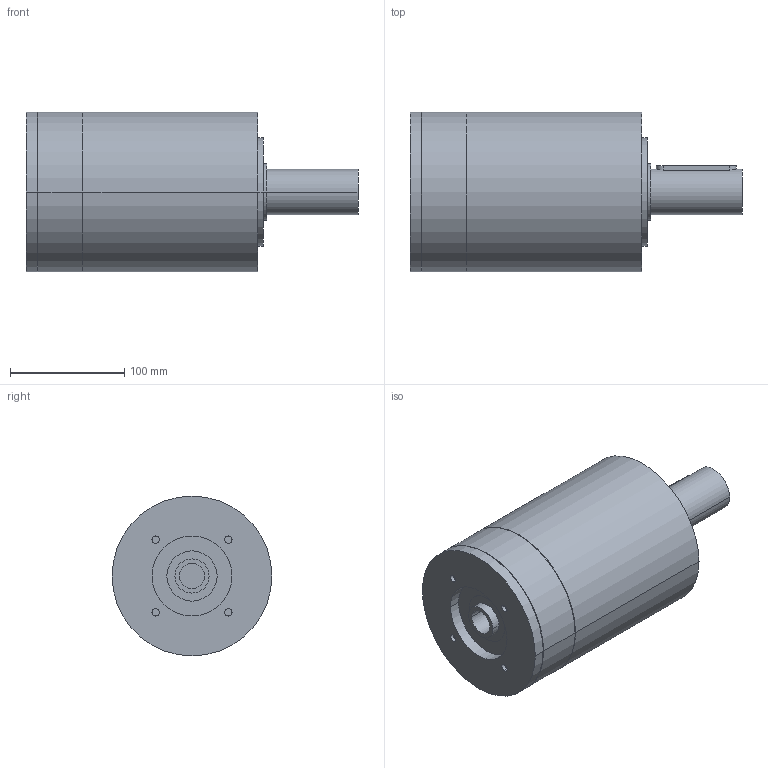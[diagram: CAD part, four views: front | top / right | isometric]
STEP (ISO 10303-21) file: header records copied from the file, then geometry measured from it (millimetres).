
FILE_DESCRIPTION(('CoCreate Modeling STEP Export'),'2;1');
FILE_NAME('GPR150_ig-9-12-16-20-28-35_40_B14_22_P15.stp','2014-08-26T15:30:44',(''),(''),'CoCreate Modeling STEP processor for AP214 (Solid Model)','CoCreate Modeling 16.00C 25-Feb-2009 (C) Parametric Technology GmbH','');
FILE_SCHEMA(('AUTOMOTIVE_DESIGN { 1 0 10303 214 1 1 1 1 }'));
Length unit declared in the file: millimetre
Products named in the file (2): GPR150_ig-9-12-16-20-28-35_40_B14_22_P15
Assembly tree (1 placements, depth 2):
  GPR150_ig-9-12-16-20-28-35_40_B14_22_P15
    GPR150_ig-9-12-16-20-28-35_40_B14_22_P15
Bounding box: 291 x 140 x 140 mm (x, y, z)
Volume: 3199094.9 mm3; surface area: 146268.4 mm2
Topology: 1 solids, 1 shells, 80 faces, 196 edges, 138 vertices
Faces by surface type: cylinder 48, plane 26, cone 6
Entity records: 2025 total; most frequent: CARTESIAN_POINT 388, ORIENTED_EDGE 388, DIRECTION 264, EDGE_CURVE 194, VERTEX_POINT 138, AXIS2_PLACEMENT_3D 102, EDGE_LOOP 102, FACE_OUTER_BOUND 80
